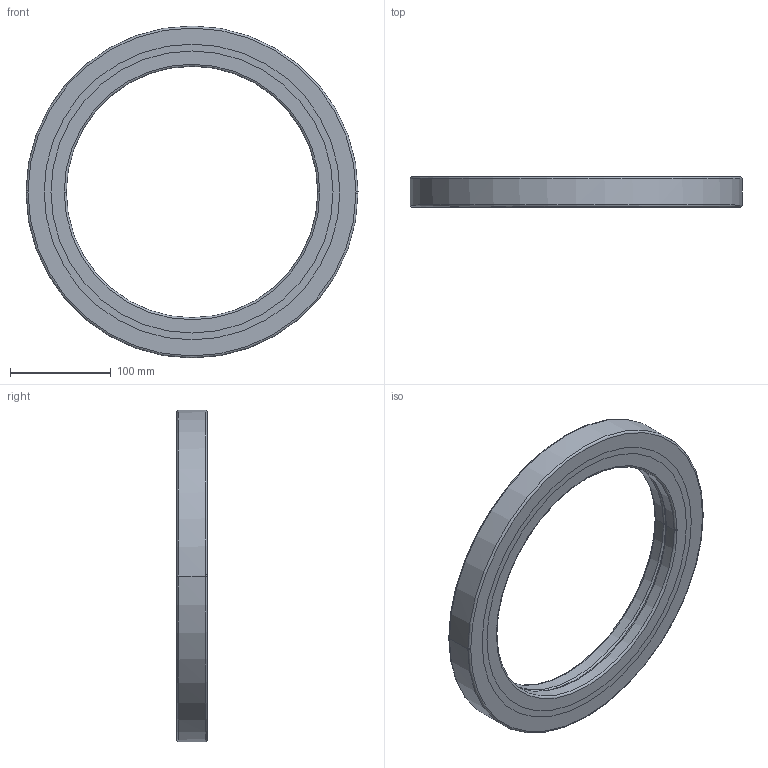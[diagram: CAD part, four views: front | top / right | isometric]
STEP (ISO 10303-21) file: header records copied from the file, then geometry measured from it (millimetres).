
FILE_DESCRIPTION(('no description'),'unknown implementation level');
FILE_NAME('CRBB25030_85.stp',' ',('HIWIN GmbH'),('CADClick - KiM GmbH - www.kimweb.de'),'unknown preprocess','ACIS','unknown authorization');
FILE_SCHEMA(('automotive_design'));
Length unit declared in the file: millimetre
Products named in the file (5): CRBB25030_1; CRBB25030_2; CRBB25030_3; CRBB25030_4; CRBB25030
Bounding box: 330 x 30 x 330 mm (x, y, z)
Volume: 926818.1 mm3; surface area: 221306.4 mm2
Topology: 5 solids, 5 shells, 54 faces, 120 edges, 76 vertices
Faces by surface type: torus 24, cylinder 20, plane 10
Entity records: 3096 total; most frequent: DIRECTION 338, STYLED_ITEM 255, PRESENTATION_STYLE_ASSIGNMENT 255, CARTESIAN_POINT 255, COLOUR_RGB 255, ORIENTED_EDGE 240, AXIS2_PLACEMENT_3D 159, EDGE_CURVE 120
